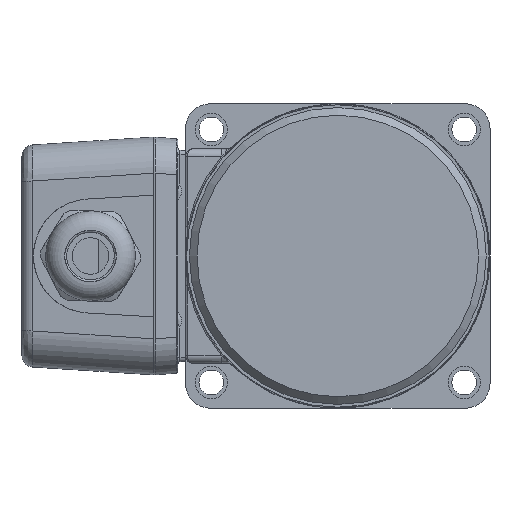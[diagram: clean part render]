
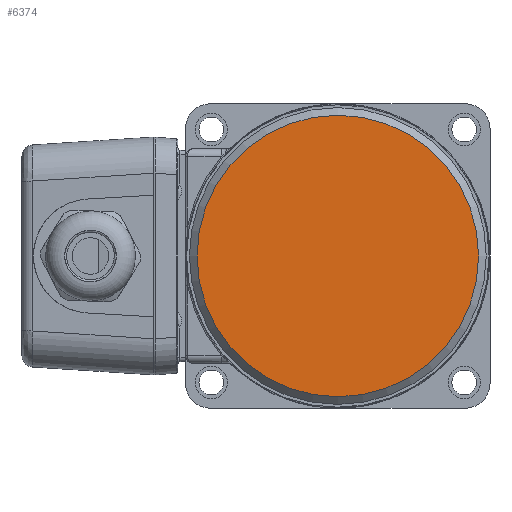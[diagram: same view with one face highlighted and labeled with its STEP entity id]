
A CAD part, left-side view. The second image highlights one B-rep face of the part: STEP entity #6374.
In plain terms, the highlighted planar face has unit normal (-1, 0, 0).
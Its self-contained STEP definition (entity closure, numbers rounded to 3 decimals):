
#813=CIRCLE('',#6946,37.);
#1181=FACE_OUTER_BOUND('',#1563,.T.);
#1563=EDGE_LOOP('',(#5539));
#3097=VERTEX_POINT('',#12646);
#3928=EDGE_CURVE('',#3097,#3097,#813,.T.);
#5539=ORIENTED_EDGE('',*,*,#3928,.F.);
#6054=PLANE('',#6945);
#6374=ADVANCED_FACE('',(#1181),#6054,.T.);
#6945=AXIS2_PLACEMENT_3D('',#12645,#8431,#8432);
#6946=AXIS2_PLACEMENT_3D('',#12647,#8433,#8434);
#8431=DIRECTION('center_axis',(-1.,0.,0.));
#8432=DIRECTION('ref_axis',(0.,0.,1.));
#8433=DIRECTION('center_axis',(1.,0.,0.));
#8434=DIRECTION('ref_axis',(0.,1.,0.));
#12645=CARTESIAN_POINT('Origin',(0.,18.5,0.));
#12646=CARTESIAN_POINT('',(0.,-37.,0.));
#12647=CARTESIAN_POINT('Origin',(0.,0.,
0.));
